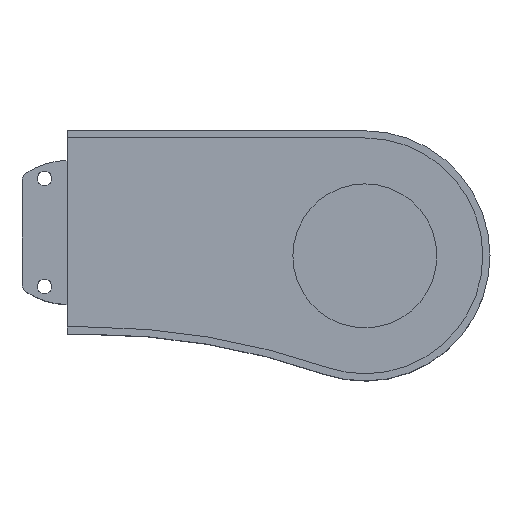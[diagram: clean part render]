
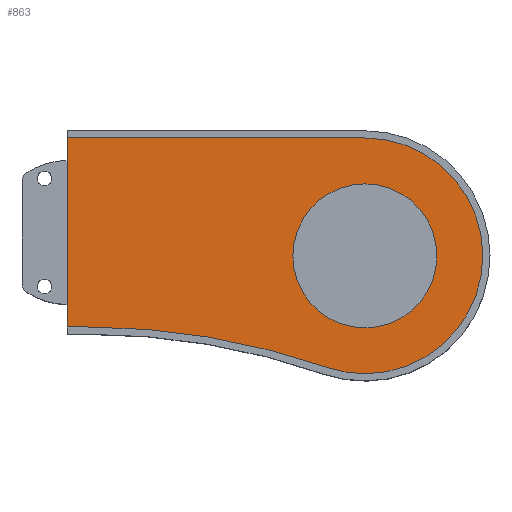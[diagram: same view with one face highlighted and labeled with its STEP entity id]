
A CAD part, top view. The second image highlights one B-rep face of the part: STEP entity #863.
In plain terms, the highlighted planar face has unit normal (0, 0, 1).
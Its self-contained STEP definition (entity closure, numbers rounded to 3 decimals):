
#52 = CARTESIAN_POINT ( 'NONE',  ( -235., -4., 42.5 ) ) ;
#230 = ORIENTED_EDGE ( 'NONE', *, *, #1253, .F. ) ;
#253 = VERTEX_POINT ( 'NONE', #276 ) ;
#276 = CARTESIAN_POINT ( 'NONE',  ( -29.5, -69.5, 42.5 ) ) ;
#291 = CARTESIAN_POINT ( 'NONE',  ( -69.5, -4., 42.5 ) ) ;
#298 = DIRECTION ( 'NONE',  ( -1., 0., 0. ) ) ;
#386 = CARTESIAN_POINT ( 'NONE',  ( -69.5, -4., 42.5 ) ) ;
#411 = VERTEX_POINT ( 'NONE', #386 ) ;
#425 = ORIENTED_EDGE ( 'NONE', *, *, #1115, .T. ) ;
#430 = DIRECTION ( 'NONE',  ( -1., 0., 0. ) ) ;
#440 = ORIENTED_EDGE ( 'NONE', *, *, #1149, .F. ) ;
#451 = AXIS2_PLACEMENT_3D ( 'NONE', #546, #549, #551 ) ;
#457 = AXIS2_PLACEMENT_3D ( 'NONE', #476, #481, #485 ) ;
#476 = CARTESIAN_POINT ( 'NONE',  ( -69.5, -69.5, 42.5 ) ) ;
#479 = CARTESIAN_POINT ( 'NONE',  ( -90.995, -131.373, 42.5 ) ) ;
#480 = CIRCLE ( 'NONE', #451, 404. ) ;
#481 = DIRECTION ( 'NONE',  ( 0., 0., -1. ) ) ;
#485 = DIRECTION ( 'NONE',  ( -1., 0., 0. ) ) ;
#495 = CIRCLE ( 'NONE', #457, 65.5 ) ;
#518 = VECTOR ( 'NONE', #298, 1000. ) ;
#536 = LINE ( 'NONE', #291, #518 ) ;
#546 = CARTESIAN_POINT ( 'NONE',  ( -223.571, -513., 42.5 ) ) ;
#549 = DIRECTION ( 'NONE',  ( 0., 0., 1. ) ) ;
#551 = DIRECTION ( 'NONE',  ( 1., 0., 0. ) ) ;
#555 = AXIS2_PLACEMENT_3D ( 'NONE', #897, #920, #940 ) ;
#558 = VECTOR ( 'NONE', #1314, 1000. ) ;
#561 = LINE ( 'NONE', #1454, #558 ) ;
#566 = VERTEX_POINT ( 'NONE', #479 ) ;
#581 = VECTOR ( 'NONE', #1415, 1000. ) ;
#594 = LINE ( 'NONE', #1214, #581 ) ;
#606 = CARTESIAN_POINT ( 'NONE',  ( -69.5, -69.5, 42.5 ) ) ;
#615 = CIRCLE ( 'NONE', #555, 40. ) ;
#618 = DIRECTION ( 'NONE',  ( 0., 0., -1. ) ) ;
#670 = AXIS2_PLACEMENT_3D ( 'NONE', #606, #618, #430 ) ;
#709 = CIRCLE ( 'NONE', #670, 40. ) ;
#712 = FACE_OUTER_BOUND ( 'NONE', #1417, .T. ) ;
#720 = FACE_BOUND ( 'NONE', #753, .T. ) ;
#743 = AXIS2_PLACEMENT_3D ( 'NONE', #865, #981, #931 ) ;
#753 = EDGE_LOOP ( 'NONE', ( #1313, #425 ) ) ;
#824 = ORIENTED_EDGE ( 'NONE', *, *, #1269, .F. ) ;
#863 = ADVANCED_FACE ( 'NONE', ( #720, #712 ), #872, .F. ) ;
#865 = CARTESIAN_POINT ( 'NONE',  ( -69.5, -69.5, 42.5 ) ) ;
#872 = PLANE ( 'NONE',  #743 ) ;
#879 = ORIENTED_EDGE ( 'NONE', *, *, #1138, .T. ) ;
#884 = ORIENTED_EDGE ( 'NONE', *, *, #1230, .T. ) ;
#897 = CARTESIAN_POINT ( 'NONE',  ( -69.5, -69.5, 42.5 ) ) ;
#920 = DIRECTION ( 'NONE',  ( 0., 0., -1. ) ) ;
#928 = CARTESIAN_POINT ( 'NONE',  ( -223.571, -109., 42.5 ) ) ;
#931 = DIRECTION ( 'NONE',  ( -1., 0., 0. ) ) ;
#940 = DIRECTION ( 'NONE',  ( -1., 0., 0. ) ) ;
#981 = DIRECTION ( 'NONE',  ( 0., 0., -1. ) ) ;
#1041 = EDGE_CURVE ( 'NONE', #253, #1411, #709, .T. ) ;
#1115 = EDGE_CURVE ( 'NONE', #1411, #253, #615, .T. ) ;
#1138 = EDGE_CURVE ( 'NONE', #1181, #1430, #594, .T. ) ;
#1149 = EDGE_CURVE ( 'NONE', #1341, #1430, #561, .T. ) ;
#1181 = VERTEX_POINT ( 'NONE', #52 ) ;
#1214 = CARTESIAN_POINT ( 'NONE',  ( -235., -16.5, 42.5 ) ) ;
#1230 = EDGE_CURVE ( 'NONE', #411, #1181, #536, .T. ) ;
#1253 = EDGE_CURVE ( 'NONE', #411, #566, #495, .T. ) ;
#1269 = EDGE_CURVE ( 'NONE', #566, #1341, #480, .T. ) ;
#1310 = CARTESIAN_POINT ( 'NONE',  ( -109.5, -69.5, 42.5 ) ) ;
#1313 = ORIENTED_EDGE ( 'NONE', *, *, #1041, .T. ) ;
#1314 = DIRECTION ( 'NONE',  ( -1., 0., 0. ) ) ;
#1341 = VERTEX_POINT ( 'NONE', #928 ) ;
#1358 = CARTESIAN_POINT ( 'NONE',  ( -235., -109., 42.5 ) ) ;
#1411 = VERTEX_POINT ( 'NONE', #1310 ) ;
#1415 = DIRECTION ( 'NONE',  ( 0., -1., 0. ) ) ;
#1417 = EDGE_LOOP ( 'NONE', ( #440, #824, #230, #884, #879 ) ) ;
#1430 = VERTEX_POINT ( 'NONE', #1358 ) ;
#1454 = CARTESIAN_POINT ( 'NONE',  ( -223.571, -109., 42.5 ) ) ;
